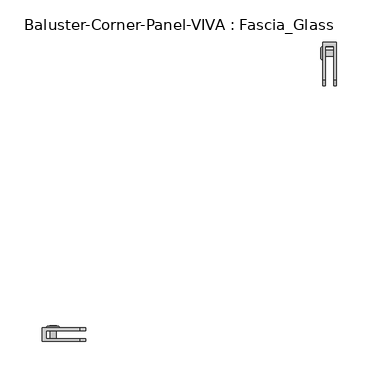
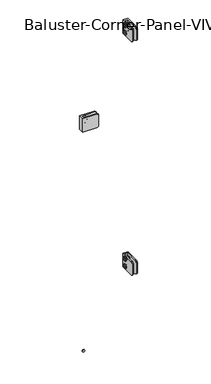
"""IFC4 building model written with IfcOpenShell, lengths in millimetres: railing geometry, Baluster-Corner-Panel-VIVA : Fascia_Glass."""

from ifc_helpers import new_model, si_unit, point, frame, origin, place, context, project, spatial, polyline, circle_curve, ellipse_curve, trimmed, outline, extrude, source, transform, mapped, element, save
from ifc_brep_helpers import plane_surface, cylinder_surface, revolved_surface, advanced_brep


def baluster_corner_panel_viva_fascia_glass_e2692511(model_context):
    return source(origin(), model_context, "Body", "SolidModel", [
        extrude(outline(polyline([(304.0266639, 917.178125), (301.9796998, 913.6326791), (297.8857715, 913.6326791), (295.8388073, 917.178125), (297.8857715, 920.7235709), (301.9796998, 920.7235709), (304.0266639, 917.178125)])), frame((21.7024185, 0.0, 0.0), z_axis=(1.0, 0.0, 0.0), x_axis=(0.0, 1.0, 0.0)), (0.0, 0.0, 1.0), 1.4969696),
        advanced_brep(
        [(36.7665, 303.4781815, 917.178125), (36.7665, 296.3872897, 917.178125), (24.0665, 296.3872897, 917.178125), (24.0665, 303.4781815, 917.178125), (24.0665, 292.5249465, 917.178125), (24.0665, 307.3405247, 917.178125), (23.199388, 301.588811, 917.178125), (23.199388, 298.2766602, 917.178125), (36.7665, 298.2766602, 917.178125), (36.7665, 301.588811, 917.178125), (23.2316551, 307.3405247, 917.178125), (23.2316551, 292.5249465, 917.178125), (21.9503831, 293.8062186, 917.178125), (21.9503831, 306.0592527, 917.178125), (21.9503831, 295.6341401, 917.178125), (21.9503831, 304.2313312, 917.178125), (23.199388, 295.6341401, 917.178125), (23.199388, 304.2313312, 917.178125)],
        [
            (0, 1, circle_curve(frame((36.7665, 299.9327356, 917.178125), z_axis=(-1.0, 0.0, 0.0), x_axis=(0.0, -1.0, 0.0)), 3.5454459)),
            (1, 2),
            (2, 3, circle_curve(frame((24.0665, 299.9327356, 917.178125), z_axis=(1.0, 0.0, 0.0), x_axis=(0.0, -1.0, 0.0)), 3.5454459)),
            (3, 0),
            (1, 0, circle_curve(frame((36.7665, 299.9327356, 917.178125), z_axis=(-1.0, 0.0, 0.0), x_axis=(0.0, -1.0, 0.0)), 3.5454459)),
            (3, 2, circle_curve(frame((24.0665, 299.9327356, 917.178125), z_axis=(1.0, 0.0, 0.0), x_axis=(0.0, -1.0, 0.0)), 3.5454459)),
            (2, 4),
            (4, 5, circle_curve(frame((24.0665, 299.9327356, 917.178125), z_axis=(1.0, 0.0, 0.0), x_axis=(0.0, -1.0, 0.0)), 7.4077891)),
            (5, 3),
            (5, 4, circle_curve(frame((24.0665, 299.9327356, 917.178125), z_axis=(1.0, 0.0, 0.0), x_axis=(0.0, -1.0, 0.0)), 7.4077891)),
            (6, 7, circle_curve(frame((23.199388, 299.9327356, 917.178125), z_axis=(-1.0, 0.0, 0.0), x_axis=(0.0, -1.0, 0.0)), 1.6560754)),
            (7, 8),
            (8, 9, circle_curve(frame((36.7665, 299.9327356, 917.178125), z_axis=(1.0, 0.0, 0.0), x_axis=(0.0, -1.0, 0.0)), 1.6560754)),
            (9, 6),
            (7, 6, circle_curve(frame((23.199388, 299.9327356, 917.178125), z_axis=(-1.0, 0.0, 0.0), x_axis=(0.0, -1.0, 0.0)), 1.6560754)),
            (9, 8, circle_curve(frame((36.7665, 299.9327356, 917.178125), z_axis=(1.0, 0.0, 0.0), x_axis=(0.0, -1.0, 0.0)), 1.6560754)),
            (10, 11, circle_curve(frame((23.2316551, 299.9327356, 917.178125), z_axis=(-1.0, 0.0, 0.0), x_axis=(0.0, -1.0, 0.0)), 7.4077891)),
            (11, 12, circle_curve(frame((23.2316551, 293.8062186, 917.178125), z_axis=(0.0, 0.0, -1.0), x_axis=(0.0, -1.0, 0.0)), 1.281272)),
            (12, 13, circle_curve(frame((21.9503831, 299.9327356, 917.178125), z_axis=(1.0, 0.0, 0.0), x_axis=(0.0, -1.0, 0.0)), 6.1265171)),
            (13, 10, circle_curve(frame((23.2316551, 306.0592527, 917.178125), z_axis=(0.0, 0.0, -1.0), x_axis=(0.0, 1.0, 0.0)), 1.281272)),
            (11, 10, circle_curve(frame((23.2316551, 299.9327356, 917.178125), z_axis=(-1.0, 0.0, 0.0), x_axis=(0.0, -1.0, 0.0)), 7.4077891)),
            (13, 12, circle_curve(frame((21.9503831, 299.9327356, 917.178125), z_axis=(1.0, 0.0, 0.0), x_axis=(0.0, -1.0, 0.0)), 6.1265171)),
            (12, 14),
            (14, 15, circle_curve(frame((21.9503831, 299.9327356, 917.178125), z_axis=(1.0, 0.0, 0.0), x_axis=(0.0, -1.0, 0.0)), 4.2985955)),
            (15, 13),
            (15, 14, circle_curve(frame((21.9503831, 299.9327356, 917.178125), z_axis=(1.0, 0.0, 0.0), x_axis=(0.0, -1.0, 0.0)), 4.2985955)),
            (4, 11),
            (10, 5),
            (8, 1),
            (0, 9),
            (14, 16),
            (16, 17, circle_curve(frame((23.199388, 299.9327356, 917.178125), z_axis=(1.0, 0.0, 0.0), x_axis=(0.0, -1.0, 0.0)), 4.2985955)),
            (17, 15),
            (17, 16, circle_curve(frame((23.199388, 299.9327356, 917.178125), z_axis=(1.0, 0.0, 0.0), x_axis=(0.0, -1.0, 0.0)), 4.2985955)),
            (16, 7),
            (6, 17),
        ],
        [
            cylinder_surface(frame((27.5632331, 299.9327356, 917.178125), z_axis=(1.0, 0.0, 0.0), x_axis=(0.0, -1.0, 0.0)), 3.5454459),
            plane_surface(frame((24.0665, 299.9327356, 917.178125), z_axis=(1.0, 0.0, 0.0), x_axis=(0.0, -1.0, 0.0))),
            revolved_surface(polyline([(36.7665, 298.2766602, 917.178125), (23.199388, 298.2766602, 917.178125)]), (27.5632331, 299.9327356, 917.178125), (1.0, 0.0, 0.0)),
            revolved_surface(trimmed(ellipse_curve(frame((23.2316551, 293.8062186, 917.178125), z_axis=(0.0, 0.0, 1.0), x_axis=(0.0, -1.0, 0.0)), 1.281272, 1.281272), [point((21.9503831, 293.8062186, 917.178125))], [point((23.2316551, 292.5249465, 917.178125))], True, "CARTESIAN"), (27.5632331, 299.9327356, 917.178125), (1.0, 0.0, 0.0)),
            plane_surface(frame((21.9503831, 299.9327356, 917.178125), z_axis=(-1.0, 0.0, 0.0), x_axis=(0.0, -1.0, 0.0))),
            cylinder_surface(frame((27.5632331, 299.9327356, 917.178125), z_axis=(1.0, 0.0, 0.0), x_axis=(0.0, -1.0, 0.0)), 7.4077891),
            plane_surface(frame((36.7665, 299.9327356, 917.178125), z_axis=(1.0, 0.0, 0.0), x_axis=(0.0, -1.0, 0.0))),
            revolved_surface(polyline([(23.199388, 295.6341401, 917.178125), (21.9503831, 295.6341401, 917.178125)]), (27.5632331, 299.9327356, 917.178125), (1.0, 0.0, 0.0)),
            plane_surface(frame((23.199388, 299.9327356, 917.178125), z_axis=(-1.0, 0.0, 0.0), x_axis=(0.0, -1.0, 0.0))),
        ],
        [
            (0, [[1, 2, 3, 4]]),
            (0, [[5, -4, 6, -2]]),
            (1, [[-3, 7, 8, 9]]),
            (1, [[-6, -9, 10, -7]]),
            (2, [[11, 12, 13, 14]]),
            (2, [[15, -14, 16, -12]]),
            (3, [[17, 18, 19, 20]]),
            (3, [[21, -20, 22, -18]]),
            (4, [[-19, 23, 24, 25]]),
            (4, [[-22, -25, 26, -23]]),
            (5, [[-8, 27, -17, 28]]),
            (5, [[-10, -28, -21, -27]]),
            (6, [[-13, 29, -1, 30]]),
            (6, [[-16, -30, -5, -29]]),
            (7, [[-24, 31, 32, 33]]),
            (7, [[-26, -33, 34, -31]]),
            (8, [[-32, 35, -11, 36]]),
            (8, [[-34, -36, -15, -35]]),
        ],
    ),
        advanced_brep(
        [(36.7665, 303.4781815, 892.571875), (36.7665, 296.3872897, 892.571875), (24.0665, 296.3872897, 892.571875), (24.0665, 303.4781815, 892.571875), (24.0665, 292.5249465, 892.571875), (24.0665, 307.3405247, 892.571875), (23.199388, 301.588811, 892.571875), (23.199388, 298.2766602, 892.571875), (36.7665, 298.2766602, 892.571875), (36.7665, 301.588811, 892.571875), (23.2316551, 307.3405247, 892.571875), (23.2316551, 292.5249465, 892.571875), (21.9503831, 293.8062186, 892.571875), (21.9503831, 306.0592527, 892.571875), (21.9503831, 295.6341401, 892.571875), (21.9503831, 304.2313312, 892.571875), (23.199388, 295.6341401, 892.571875), (23.199388, 304.2313312, 892.571875)],
        [
            (0, 1, circle_curve(frame((36.7665, 299.9327356, 892.571875), z_axis=(-1.0, 0.0, 0.0), x_axis=(0.0, -1.0, 0.0)), 3.5454459)),
            (1, 2),
            (2, 3, circle_curve(frame((24.0665, 299.9327356, 892.571875), z_axis=(1.0, 0.0, 0.0), x_axis=(0.0, -1.0, 0.0)), 3.5454459)),
            (3, 0),
            (1, 0, circle_curve(frame((36.7665, 299.9327356, 892.571875), z_axis=(-1.0, 0.0, 0.0), x_axis=(0.0, -1.0, 0.0)), 3.5454459)),
            (3, 2, circle_curve(frame((24.0665, 299.9327356, 892.571875), z_axis=(1.0, 0.0, 0.0), x_axis=(0.0, -1.0, 0.0)), 3.5454459)),
            (2, 4),
            (4, 5, circle_curve(frame((24.0665, 299.9327356, 892.571875), z_axis=(1.0, 0.0, 0.0), x_axis=(0.0, -1.0, 0.0)), 7.4077891)),
            (5, 3),
            (5, 4, circle_curve(frame((24.0665, 299.9327356, 892.571875), z_axis=(1.0, 0.0, 0.0), x_axis=(0.0, -1.0, 0.0)), 7.4077891)),
            (6, 7, circle_curve(frame((23.199388, 299.9327356, 892.571875), z_axis=(-1.0, 0.0, 0.0), x_axis=(0.0, -1.0, 0.0)), 1.6560754)),
            (7, 8),
            (8, 9, circle_curve(frame((36.7665, 299.9327356, 892.571875), z_axis=(1.0, 0.0, 0.0), x_axis=(0.0, -1.0, 0.0)), 1.6560754)),
            (9, 6),
            (7, 6, circle_curve(frame((23.199388, 299.9327356, 892.571875), z_axis=(-1.0, 0.0, 0.0), x_axis=(0.0, -1.0, 0.0)), 1.6560754)),
            (9, 8, circle_curve(frame((36.7665, 299.9327356, 892.571875), z_axis=(1.0, 0.0, 0.0), x_axis=(0.0, -1.0, 0.0)), 1.6560754)),
            (10, 11, circle_curve(frame((23.2316551, 299.9327356, 892.571875), z_axis=(-1.0, 0.0, 0.0), x_axis=(0.0, -1.0, 0.0)), 7.4077891)),
            (11, 12, circle_curve(frame((23.2316551, 293.8062186, 892.571875), z_axis=(0.0, 0.0, -1.0), x_axis=(0.0, -1.0, 0.0)), 1.281272)),
            (12, 13, circle_curve(frame((21.9503831, 299.9327356, 892.571875), z_axis=(1.0, 0.0, 0.0), x_axis=(0.0, -1.0, 0.0)), 6.1265171)),
            (13, 10, circle_curve(frame((23.2316551, 306.0592527, 892.571875), z_axis=(0.0, 0.0, -1.0), x_axis=(0.0, 1.0, 0.0)), 1.281272)),
            (11, 10, circle_curve(frame((23.2316551, 299.9327356, 892.571875), z_axis=(-1.0, 0.0, 0.0), x_axis=(0.0, -1.0, 0.0)), 7.4077891)),
            (13, 12, circle_curve(frame((21.9503831, 299.9327356, 892.571875), z_axis=(1.0, 0.0, 0.0), x_axis=(0.0, -1.0, 0.0)), 6.1265171)),
            (12, 14),
            (14, 15, circle_curve(frame((21.9503831, 299.9327356, 892.571875), z_axis=(1.0, 0.0, 0.0), x_axis=(0.0, -1.0, 0.0)), 4.2985955)),
            (15, 13),
            (15, 14, circle_curve(frame((21.9503831, 299.9327356, 892.571875), z_axis=(1.0, 0.0, 0.0), x_axis=(0.0, -1.0, 0.0)), 4.2985955)),
            (8, 1),
            (0, 9),
            (4, 11),
            (10, 5),
            (14, 16),
            (16, 17, circle_curve(frame((23.199388, 299.9327356, 892.571875), z_axis=(1.0, 0.0, 0.0), x_axis=(0.0, -1.0, 0.0)), 4.2985955)),
            (17, 15),
            (17, 16, circle_curve(frame((23.199388, 299.9327356, 892.571875), z_axis=(1.0, 0.0, 0.0), x_axis=(0.0, -1.0, 0.0)), 4.2985955)),
            (16, 7),
            (6, 17),
        ],
        [
            cylinder_surface(frame((27.5632331, 299.9327356, 892.571875), z_axis=(1.0, 0.0, 0.0), x_axis=(0.0, -1.0, 0.0)), 3.5454459),
            plane_surface(frame((24.0665, 299.9327356, 892.571875), z_axis=(1.0, 0.0, 0.0), x_axis=(0.0, -1.0, 0.0))),
            revolved_surface(polyline([(36.7665, 298.2766602, 892.571875), (23.199388, 298.2766602, 892.571875)]), (27.5632331, 299.9327356, 892.571875), (1.0, 0.0, 0.0)),
            revolved_surface(trimmed(ellipse_curve(frame((23.2316551, 293.8062186, 892.571875), z_axis=(0.0, 0.0, 1.0), x_axis=(0.0, -1.0, 0.0)), 1.281272, 1.281272), [point((21.9503831, 293.8062186, 892.571875))], [point((23.2316551, 292.5249465, 892.571875))], True, "CARTESIAN"), (27.5632331, 299.9327356, 892.571875), (1.0, 0.0, 0.0)),
            plane_surface(frame((21.9503831, 299.9327356, 892.571875), z_axis=(-1.0, 0.0, 0.0), x_axis=(0.0, -1.0, 0.0))),
            plane_surface(frame((36.7665, 299.9327356, 892.571875), z_axis=(1.0, 0.0, 0.0), x_axis=(0.0, -1.0, 0.0))),
            cylinder_surface(frame((27.5632331, 299.9327356, 892.571875), z_axis=(1.0, 0.0, 0.0), x_axis=(0.0, -1.0, 0.0)), 7.4077891),
            revolved_surface(polyline([(23.199388, 295.6341401, 892.571875), (21.9503831, 295.6341401, 892.571875)]), (27.5632331, 299.9327356, 892.571875), (1.0, 0.0, 0.0)),
            plane_surface(frame((23.199388, 299.9327356, 892.571875), z_axis=(-1.0, 0.0, 0.0), x_axis=(0.0, -1.0, 0.0))),
        ],
        [
            (0, [[1, 2, 3, 4]]),
            (0, [[5, -4, 6, -2]]),
            (1, [[-3, 7, 8, 9]]),
            (1, [[-6, -9, 10, -7]]),
            (2, [[11, 12, 13, 14]]),
            (2, [[15, -14, 16, -12]]),
            (3, [[17, 18, 19, 20]]),
            (3, [[21, -20, 22, -18]]),
            (4, [[-19, 23, 24, 25]]),
            (4, [[-22, -25, 26, -23]]),
            (5, [[-13, 27, -1, 28]]),
            (5, [[-16, -28, -5, -27]]),
            (6, [[-8, 29, -17, 30]]),
            (6, [[-10, -30, -21, -29]]),
            (7, [[-24, 31, 32, 33]]),
            (7, [[-26, -33, 34, -31]]),
            (8, [[-32, 35, -11, 36]]),
            (8, [[-34, -36, -15, -35]]),
        ],
    ),
        extrude(outline(polyline([(304.0266639, 892.571875), (301.9796998, 889.0264291), (297.8857715, 889.0264291), (295.8388073, 892.571875), (297.8857715, 896.1173209), (301.9796998, 896.1173209), (304.0266639, 892.571875)])), frame((21.7024185, 0.0, 0.0), z_axis=(1.0, 0.0, 0.0), x_axis=(0.0, 1.0, 0.0)), (0.0, 0.0, 1.0), 1.4969696),
        advanced_brep(
        [(24.0665, 312.5660804, 927.1), (24.0665, 312.5660804, 882.65), (24.0665, 268.1160804, 882.65), (24.0665, 261.7660804, 889.0), (24.0665, 261.7660804, 920.75), (24.0665, 268.1160804, 927.1), (39.9415, 312.5660804, 927.1), (39.9415, 268.1160804, 927.1), (39.9415, 261.7660804, 920.75), (39.9415, 261.7660804, 889.0), (39.9415, 268.1160804, 882.65), (39.9415, 312.5660804, 882.65), (36.7665, 268.1160804, 882.65), (36.7665, 307.848, 882.65), (27.2415, 307.848, 882.65), (27.2415, 268.1160804, 882.65), (36.7665, 307.848, 927.1), (27.2415, 307.848, 927.1), (27.2415, 268.1160804, 927.1), (27.2415, 261.7660804, 920.75), (27.2415, 261.7660804, 889.0), (36.7665, 261.7660804, 889.0), (36.7665, 261.7660804, 920.75), (36.7665, 268.1160804, 927.1)],
        [
            (0, 1),
            (1, 2),
            (2, 3, circle_curve(frame((24.0665, 268.1160804, 889.0), z_axis=(-1.0, 0.0, 0.0), x_axis=(0.0, -1.0, 0.0)), 6.35)),
            (3, 4),
            (4, 5, circle_curve(frame((24.0665, 268.1160804, 920.75), z_axis=(-1.0, 0.0, 0.0), x_axis=(0.0, -1.0, 0.0)), 6.35)),
            (5, 0),
            (6, 7),
            (7, 8, circle_curve(frame((39.9415, 268.1160804, 920.75), z_axis=(1.0, 0.0, 0.0), x_axis=(0.0, -1.0, 0.0)), 6.35)),
            (8, 9),
            (9, 10, circle_curve(frame((39.9415, 268.1160804, 889.0), z_axis=(1.0, 0.0, 0.0), x_axis=(0.0, -1.0, 0.0)), 6.35)),
            (10, 11),
            (11, 6),
            (0, 6),
            (11, 1),
            (10, 12),
            (12, 13),
            (13, 14),
            (14, 15),
            (15, 2),
            (13, 16),
            (16, 17),
            (17, 14),
            (17, 18),
            (18, 19, circle_curve(frame((27.2415, 268.1160804, 920.75), z_axis=(1.0, 0.0, 0.0), x_axis=(0.0, -1.0, 0.0)), 6.35)),
            (19, 20),
            (20, 15, circle_curve(frame((27.2415, 268.1160804, 889.0), z_axis=(1.0, 0.0, 0.0), x_axis=(0.0, -1.0, 0.0)), 6.35)),
            (12, 21, circle_curve(frame((36.7665, 268.1160804, 889.0), z_axis=(-1.0, 0.0, 0.0), x_axis=(0.0, -1.0, 0.0)), 6.35)),
            (21, 22),
            (22, 23, circle_curve(frame((36.7665, 268.1160804, 920.75), z_axis=(-1.0, 0.0, 0.0), x_axis=(0.0, -1.0, 0.0)), 6.35)),
            (23, 16),
            (20, 3),
            (9, 21),
            (19, 4),
            (8, 22),
            (18, 5),
            (7, 23),
        ],
        [
            plane_surface(frame((24.0665, 312.5660804, 882.65), z_axis=(-1.0, 0.0, 0.0), x_axis=(0.0, 0.0, -1.0))),
            plane_surface(frame((39.9415, 312.5660804, 882.65), z_axis=(1.0, 0.0, 0.0), x_axis=(0.0, 0.0, 1.0))),
            plane_surface(frame((24.0665, 312.5660804, 927.1), z_axis=(0.0, 1.0, 0.0), x_axis=(1.0, 0.0, 0.0))),
            plane_surface(frame((24.0665, 312.5660804, 882.65), z_axis=(0.0, 0.0, -1.0), x_axis=(1.0, 0.0, 0.0))),
            plane_surface(frame((36.7665, 307.848, 939.8), z_axis=(0.0, -1.0, 0.0), x_axis=(0.0, 0.0, -1.0))),
            plane_surface(frame((27.2415, 307.848, 939.8), z_axis=(1.0, 0.0, 0.0), x_axis=(0.0, 0.0, -1.0))),
            plane_surface(frame((36.7665, 249.0660804, 939.8), z_axis=(-1.0, 0.0, 0.0), x_axis=(0.0, 0.0, -1.0))),
            cylinder_surface(frame((39.9415, 268.1160804, 889.0), z_axis=(-1.0, 0.0, 0.0), x_axis=(0.0, -1.0, 0.0)), 6.35),
            plane_surface(frame((24.0665, 261.7660804, 889.0), z_axis=(0.0, -1.0, 0.0), x_axis=(1.0, 0.0, 0.0))),
            cylinder_surface(frame((39.9415, 268.1160804, 920.75), z_axis=(-1.0, 0.0, 0.0), x_axis=(0.0, -1.0, 0.0)), 6.35),
            plane_surface(frame((24.0665, 268.1160804, 927.1), z_axis=(0.0, 0.0, 1.0), x_axis=(1.0, 0.0, 0.0))),
        ],
        [
            (0, [[1, 2, 3, 4, 5, 6]]),
            (1, [[7, 8, 9, 10, 11, 12]]),
            (2, [[-1, 13, -12, 14]]),
            (3, [[-2, -14, -11, 15, 16, 17, 18, 19]]),
            (4, [[20, 21, 22, -17]]),
            (5, [[-22, 23, 24, 25, 26, -18]]),
            (6, [[-20, -16, 27, 28, 29, 30]]),
            (7, [[-3, -19, -26, 31]]),
            (7, [[-10, 32, -27, -15]]),
            (8, [[-4, -31, -25, 33]]),
            (8, [[-9, 34, -28, -32]]),
            (9, [[-5, -33, -24, 35]]),
            (9, [[-8, 36, -29, -34]]),
            (10, [[-6, -35, -23, -21, -30, -36, -7, -13]]),
        ],
    ),
        extrude(outline(polyline([(304.0266639, 138.7358896), (301.9796998, 135.1904437), (297.8857715, 135.1904437), (295.8388073, 138.7358896), (297.8857715, 142.2813355), (301.9796998, 142.2813355), (304.0266639, 138.7358896)])), frame((21.7024185, 0.0, 0.0), z_axis=(1.0, 0.0, 0.0), x_axis=(0.0, 1.0, 0.0)), (0.0, 0.0, 1.0), 1.4969696),
        advanced_brep(
        [(36.7665, 303.4781815, 138.7358896), (36.7665, 296.3872897, 138.7358896), (24.0665, 296.3872897, 138.7358896), (24.0665, 303.4781815, 138.7358896), (24.0665, 292.5249465, 138.7358896), (24.0665, 307.3405247, 138.7358896), (23.199388, 301.588811, 138.7358896), (23.199388, 298.2766602, 138.7358896), (36.7665, 298.2766602, 138.7358896), (36.7665, 301.588811, 138.7358896), (23.2316551, 307.3405247, 138.7358896), (23.2316551, 292.5249465, 138.7358896), (21.9503831, 293.8062186, 138.7358896), (21.9503831, 306.0592527, 138.7358896), (21.9503831, 295.6341401, 138.7358896), (21.9503831, 304.2313312, 138.7358896), (23.199388, 295.6341401, 138.7358896), (23.199388, 304.2313312, 138.7358896)],
        [
            (0, 1, circle_curve(frame((36.7665, 299.9327356, 138.7358896), z_axis=(-1.0, 0.0, 0.0), x_axis=(0.0, -1.0, 0.0)), 3.5454459)),
            (1, 2),
            (2, 3, circle_curve(frame((24.0665, 299.9327356, 138.7358896), z_axis=(1.0, 0.0, 0.0), x_axis=(0.0, -1.0, 0.0)), 3.5454459)),
            (3, 0),
            (1, 0, circle_curve(frame((36.7665, 299.9327356, 138.7358896), z_axis=(-1.0, 0.0, 0.0), x_axis=(0.0, -1.0, 0.0)), 3.5454459)),
            (3, 2, circle_curve(frame((24.0665, 299.9327356, 138.7358896), z_axis=(1.0, 0.0, 0.0), x_axis=(0.0, -1.0, 0.0)), 3.5454459)),
            (2, 4),
            (4, 5, circle_curve(frame((24.0665, 299.9327356, 138.7358896), z_axis=(1.0, 0.0, 0.0), x_axis=(0.0, -1.0, 0.0)), 7.4077891)),
            (5, 3),
            (5, 4, circle_curve(frame((24.0665, 299.9327356, 138.7358896), z_axis=(1.0, 0.0, 0.0), x_axis=(0.0, -1.0, 0.0)), 7.4077891)),
            (6, 7, circle_curve(frame((23.199388, 299.9327356, 138.7358896), z_axis=(-1.0, 0.0, 0.0), x_axis=(0.0, -1.0, 0.0)), 1.6560754)),
            (7, 8),
            (8, 9, circle_curve(frame((36.7665, 299.9327356, 138.7358896), z_axis=(1.0, 0.0, 0.0), x_axis=(0.0, -1.0, 0.0)), 1.6560754)),
            (9, 6),
            (7, 6, circle_curve(frame((23.199388, 299.9327356, 138.7358896), z_axis=(-1.0, 0.0, 0.0), x_axis=(0.0, -1.0, 0.0)), 1.6560754)),
            (9, 8, circle_curve(frame((36.7665, 299.9327356, 138.7358896), z_axis=(1.0, 0.0, 0.0), x_axis=(0.0, -1.0, 0.0)), 1.6560754)),
            (10, 11, circle_curve(frame((23.2316551, 299.9327356, 138.7358896), z_axis=(-1.0, 0.0, 0.0), x_axis=(0.0, -1.0, 0.0)), 7.4077891)),
            (11, 12, circle_curve(frame((23.2316551, 293.8062186, 138.7358896), z_axis=(0.0, 0.0, -1.0), x_axis=(0.0, -1.0, 0.0)), 1.281272)),
            (12, 13, circle_curve(frame((21.9503831, 299.9327356, 138.7358896), z_axis=(1.0, 0.0, 0.0), x_axis=(0.0, -1.0, 0.0)), 6.1265171)),
            (13, 10, circle_curve(frame((23.2316551, 306.0592527, 138.7358896), z_axis=(0.0, 0.0, -1.0), x_axis=(0.0, 1.0, 0.0)), 1.281272)),
            (11, 10, circle_curve(frame((23.2316551, 299.9327356, 138.7358896), z_axis=(-1.0, 0.0, 0.0), x_axis=(0.0, -1.0, 0.0)), 7.4077891)),
            (13, 12, circle_curve(frame((21.9503831, 299.9327356, 138.7358896), z_axis=(1.0, 0.0, 0.0), x_axis=(0.0, -1.0, 0.0)), 6.1265171)),
            (12, 14),
            (14, 15, circle_curve(frame((21.9503831, 299.9327356, 138.7358896), z_axis=(1.0, 0.0, 0.0), x_axis=(0.0, -1.0, 0.0)), 4.2985955)),
            (15, 13),
            (15, 14, circle_curve(frame((21.9503831, 299.9327356, 138.7358896), z_axis=(1.0, 0.0, 0.0), x_axis=(0.0, -1.0, 0.0)), 4.2985955)),
            (4, 11),
            (10, 5),
            (8, 1),
            (0, 9),
            (14, 16),
            (16, 17, circle_curve(frame((23.199388, 299.9327356, 138.7358896), z_axis=(1.0, 0.0, 0.0), x_axis=(0.0, -1.0, 0.0)), 4.2985955)),
            (17, 15),
            (17, 16, circle_curve(frame((23.199388, 299.9327356, 138.7358896), z_axis=(1.0, 0.0, 0.0), x_axis=(0.0, -1.0, 0.0)), 4.2985955)),
            (16, 7),
            (6, 17),
        ],
        [
            cylinder_surface(frame((27.5632331, 299.9327356, 138.7358896), z_axis=(1.0, 0.0, 0.0), x_axis=(0.0, -1.0, 0.0)), 3.5454459),
            plane_surface(frame((24.0665, 299.9327356, 138.7358896), z_axis=(1.0, 0.0, 0.0), x_axis=(0.0, -1.0, 0.0))),
            revolved_surface(polyline([(36.7665, 298.2766602, 138.7358896), (23.199388, 298.2766602, 138.7358896)]), (27.5632331, 299.9327356, 138.7358896), (1.0, 0.0, 0.0)),
            revolved_surface(trimmed(ellipse_curve(frame((23.2316551, 293.8062186, 138.7358896), z_axis=(0.0, 0.0, 1.0), x_axis=(0.0, -1.0, 0.0)), 1.281272, 1.281272), [point((21.9503831, 293.8062186, 138.7358896))], [point((23.2316551, 292.5249465, 138.7358896))], True, "CARTESIAN"), (27.5632331, 299.9327356, 138.7358896), (1.0, 0.0, 0.0)),
            plane_surface(frame((21.9503831, 299.9327356, 138.7358896), z_axis=(-1.0, 0.0, 0.0), x_axis=(0.0, -1.0, 0.0))),
            cylinder_surface(frame((27.5632331, 299.9327356, 138.7358896), z_axis=(1.0, 0.0, 0.0), x_axis=(0.0, -1.0, 0.0)), 7.4077891),
            plane_surface(frame((36.7665, 299.9327356, 138.7358896), z_axis=(1.0, 0.0, 0.0), x_axis=(0.0, -1.0, 0.0))),
            revolved_surface(polyline([(23.199388, 295.6341401, 138.7358896), (21.9503831, 295.6341401, 138.7358896)]), (27.5632331, 299.9327356, 138.7358896), (1.0, 0.0, 0.0)),
            plane_surface(frame((23.199388, 299.9327356, 138.7358896), z_axis=(-1.0, 0.0, 0.0), x_axis=(0.0, -1.0, 0.0))),
        ],
        [
            (0, [[1, 2, 3, 4]]),
            (0, [[5, -4, 6, -2]]),
            (1, [[-3, 7, 8, 9]]),
            (1, [[-6, -9, 10, -7]]),
            (2, [[11, 12, 13, 14]]),
            (2, [[15, -14, 16, -12]]),
            (3, [[17, 18, 19, 20]]),
            (3, [[21, -20, 22, -18]]),
            (4, [[-19, 23, 24, 25]]),
            (4, [[-22, -25, 26, -23]]),
            (5, [[-8, 27, -17, 28]]),
            (5, [[-10, -28, -21, -27]]),
            (6, [[-13, 29, -1, 30]]),
            (6, [[-16, -30, -5, -29]]),
            (7, [[-24, 31, 32, 33]]),
            (7, [[-26, -33, 34, -31]]),
            (8, [[-32, 35, -11, 36]]),
            (8, [[-34, -36, -15, -35]]),
        ],
    ),
        advanced_brep(
        [(36.7665, 303.4781815, 114.1296396), (36.7665, 296.3872897, 114.1296396), (24.0665, 296.3872897, 114.1296396), (24.0665, 303.4781815, 114.1296396), (24.0665, 292.5249465, 114.1296396), (24.0665, 307.3405247, 114.1296396), (23.199388, 301.588811, 114.1296396), (23.199388, 298.2766602, 114.1296396), (36.7665, 298.2766602, 114.1296396), (36.7665, 301.588811, 114.1296396), (23.2316551, 307.3405247, 114.1296396), (23.2316551, 292.5249465, 114.1296396), (21.9503831, 293.8062186, 114.1296396), (21.9503831, 306.0592527, 114.1296396), (21.9503831, 295.6341401, 114.1296396), (21.9503831, 304.2313312, 114.1296396), (23.199388, 295.6341401, 114.1296396), (23.199388, 304.2313312, 114.1296396)],
        [
            (0, 1, circle_curve(frame((36.7665, 299.9327356, 114.1296396), z_axis=(-1.0, 0.0, 0.0), x_axis=(0.0, -1.0, 0.0)), 3.5454459)),
            (1, 2),
            (2, 3, circle_curve(frame((24.0665, 299.9327356, 114.1296396), z_axis=(1.0, 0.0, 0.0), x_axis=(0.0, -1.0, 0.0)), 3.5454459)),
            (3, 0),
            (1, 0, circle_curve(frame((36.7665, 299.9327356, 114.1296396), z_axis=(-1.0, 0.0, 0.0), x_axis=(0.0, -1.0, 0.0)), 3.5454459)),
            (3, 2, circle_curve(frame((24.0665, 299.9327356, 114.1296396), z_axis=(1.0, 0.0, 0.0), x_axis=(0.0, -1.0, 0.0)), 3.5454459)),
            (2, 4),
            (4, 5, circle_curve(frame((24.0665, 299.9327356, 114.1296396), z_axis=(1.0, 0.0, 0.0), x_axis=(0.0, -1.0, 0.0)), 7.4077891)),
            (5, 3),
            (5, 4, circle_curve(frame((24.0665, 299.9327356, 114.1296396), z_axis=(1.0, 0.0, 0.0), x_axis=(0.0, -1.0, 0.0)), 7.4077891)),
            (6, 7, circle_curve(frame((23.199388, 299.9327356, 114.1296396), z_axis=(-1.0, 0.0, 0.0), x_axis=(0.0, -1.0, 0.0)), 1.6560754)),
            (7, 8),
            (8, 9, circle_curve(frame((36.7665, 299.9327356, 114.1296396), z_axis=(1.0, 0.0, 0.0), x_axis=(0.0, -1.0, 0.0)), 1.6560754)),
            (9, 6),
            (7, 6, circle_curve(frame((23.199388, 299.9327356, 114.1296396), z_axis=(-1.0, 0.0, 0.0), x_axis=(0.0, -1.0, 0.0)), 1.6560754)),
            (9, 8, circle_curve(frame((36.7665, 299.9327356, 114.1296396), z_axis=(1.0, 0.0, 0.0), x_axis=(0.0, -1.0, 0.0)), 1.6560754)),
            (10, 11, circle_curve(frame((23.2316551, 299.9327356, 114.1296396), z_axis=(-1.0, 0.0, 0.0), x_axis=(0.0, -1.0, 0.0)), 7.4077891)),
            (11, 12, circle_curve(frame((23.2316551, 293.8062186, 114.1296396), z_axis=(0.0, 0.0, -1.0), x_axis=(0.0, -1.0, 0.0)), 1.281272)),
            (12, 13, circle_curve(frame((21.9503831, 299.9327356, 114.1296396), z_axis=(1.0, 0.0, 0.0), x_axis=(0.0, -1.0, 0.0)), 6.1265171)),
            (13, 10, circle_curve(frame((23.2316551, 306.0592527, 114.1296396), z_axis=(0.0, 0.0, -1.0), x_axis=(0.0, 1.0, 0.0)), 1.281272)),
            (11, 10, circle_curve(frame((23.2316551, 299.9327356, 114.1296396), z_axis=(-1.0, 0.0, 0.0), x_axis=(0.0, -1.0, 0.0)), 7.4077891)),
            (13, 12, circle_curve(frame((21.9503831, 299.9327356, 114.1296396), z_axis=(1.0, 0.0, 0.0), x_axis=(0.0, -1.0, 0.0)), 6.1265171)),
            (12, 14),
            (14, 15, circle_curve(frame((21.9503831, 299.9327356, 114.1296396), z_axis=(1.0, 0.0, 0.0), x_axis=(0.0, -1.0, 0.0)), 4.2985955)),
            (15, 13),
            (15, 14, circle_curve(frame((21.9503831, 299.9327356, 114.1296396), z_axis=(1.0, 0.0, 0.0), x_axis=(0.0, -1.0, 0.0)), 4.2985955)),
            (8, 1),
            (0, 9),
            (4, 11),
            (10, 5),
            (14, 16),
            (16, 17, circle_curve(frame((23.199388, 299.9327356, 114.1296396), z_axis=(1.0, 0.0, 0.0), x_axis=(0.0, -1.0, 0.0)), 4.2985955)),
            (17, 15),
            (17, 16, circle_curve(frame((23.199388, 299.9327356, 114.1296396), z_axis=(1.0, 0.0, 0.0), x_axis=(0.0, -1.0, 0.0)), 4.2985955)),
            (16, 7),
            (6, 17),
        ],
        [
            cylinder_surface(frame((27.5632331, 299.9327356, 114.1296396), z_axis=(1.0, 0.0, 0.0), x_axis=(0.0, -1.0, 0.0)), 3.5454459),
            plane_surface(frame((24.0665, 299.9327356, 114.1296396), z_axis=(1.0, 0.0, 0.0), x_axis=(0.0, -1.0, 0.0))),
            revolved_surface(polyline([(36.7665, 298.2766602, 114.1296396), (23.199388, 298.2766602, 114.1296396)]), (27.5632331, 299.9327356, 114.1296396), (1.0, 0.0, 0.0)),
            revolved_surface(trimmed(ellipse_curve(frame((23.2316551, 293.8062186, 114.1296396), z_axis=(0.0, 0.0, 1.0), x_axis=(0.0, -1.0, 0.0)), 1.281272, 1.281272), [point((21.9503831, 293.8062186, 114.1296396))], [point((23.2316551, 292.5249465, 114.1296396))], True, "CARTESIAN"), (27.5632331, 299.9327356, 114.1296396), (1.0, 0.0, 0.0)),
            plane_surface(frame((21.9503831, 299.9327356, 114.1296396), z_axis=(-1.0, 0.0, 0.0), x_axis=(0.0, -1.0, 0.0))),
            plane_surface(frame((36.7665, 299.9327356, 114.1296396), z_axis=(1.0, 0.0, 0.0), x_axis=(0.0, -1.0, 0.0))),
            cylinder_surface(frame((27.5632331, 299.9327356, 114.1296396), z_axis=(1.0, 0.0, 0.0), x_axis=(0.0, -1.0, 0.0)), 7.4077891),
            revolved_surface(polyline([(23.199388, 295.6341401, 114.1296396), (21.9503831, 295.6341401, 114.1296396)]), (27.5632331, 299.9327356, 114.1296396), (1.0, 0.0, 0.0)),
            plane_surface(frame((23.199388, 299.9327356, 114.1296396), z_axis=(-1.0, 0.0, 0.0), x_axis=(0.0, -1.0, 0.0))),
        ],
        [
            (0, [[1, 2, 3, 4]]),
            (0, [[5, -4, 6, -2]]),
            (1, [[-3, 7, 8, 9]]),
            (1, [[-6, -9, 10, -7]]),
            (2, [[11, 12, 13, 14]]),
            (2, [[15, -14, 16, -12]]),
            (3, [[17, 18, 19, 20]]),
            (3, [[21, -20, 22, -18]]),
            (4, [[-19, 23, 24, 25]]),
            (4, [[-22, -25, 26, -23]]),
            (5, [[-13, 27, -1, 28]]),
            (5, [[-16, -28, -5, -27]]),
            (6, [[-8, 29, -17, 30]]),
            (6, [[-10, -30, -21, -29]]),
            (7, [[-24, 31, 32, 33]]),
            (7, [[-26, -33, 34, -31]]),
            (8, [[-32, 35, -11, 36]]),
            (8, [[-34, -36, -15, -35]]),
        ],
    ),
        extrude(outline(polyline([(304.0266639, 114.1296396), (301.9796998, 110.5841937), (297.8857715, 110.5841937), (295.8388073, 114.1296396), (297.8857715, 117.6750855), (301.9796998, 117.6750855), (304.0266639, 114.1296396)])), frame((21.7024185, 0.0, 0.0), z_axis=(1.0, 0.0, 0.0), x_axis=(0.0, 1.0, 0.0)), (0.0, 0.0, 1.0), 1.4969696),
        advanced_brep(
        [(24.0665, 312.5660804, 148.6577646), (24.0665, 312.5660804, 104.2077646), (24.0665, 268.1160804, 104.2077646), (24.0665, 261.7660804, 110.5577646), (24.0665, 261.7660804, 142.3077646), (24.0665, 268.1160804, 148.6577646), (39.9415, 312.5660804, 148.6577646), (39.9415, 268.1160804, 148.6577646), (39.9415, 261.7660804, 142.3077646), (39.9415, 261.7660804, 110.5577646), (39.9415, 268.1160804, 104.2077646), (39.9415, 312.5660804, 104.2077646), (36.7665, 268.1160804, 104.2077646), (36.7665, 307.848, 104.2077646), (27.2415, 307.848, 104.2077646), (27.2415, 268.1160804, 104.2077646), (36.7665, 307.848, 148.6577646), (27.2415, 307.848, 148.6577646), (27.2415, 268.1160804, 148.6577646), (27.2415, 261.7660804, 142.3077646), (27.2415, 261.7660804, 110.5577646), (36.7665, 261.7660804, 110.5577646), (36.7665, 261.7660804, 142.3077646), (36.7665, 268.1160804, 148.6577646)],
        [
            (0, 1),
            (1, 2),
            (2, 3, circle_curve(frame((24.0665, 268.1160804, 110.5577646), z_axis=(-1.0, 0.0, 0.0), x_axis=(0.0, -1.0, 0.0)), 6.35)),
            (3, 4),
            (4, 5, circle_curve(frame((24.0665, 268.1160804, 142.3077646), z_axis=(-1.0, 0.0, 0.0), x_axis=(0.0, -1.0, 0.0)), 6.35)),
            (5, 0),
            (6, 7),
            (7, 8, circle_curve(frame((39.9415, 268.1160804, 142.3077646), z_axis=(1.0, 0.0, 0.0), x_axis=(0.0, -1.0, 0.0)), 6.35)),
            (8, 9),
            (9, 10, circle_curve(frame((39.9415, 268.1160804, 110.5577646), z_axis=(1.0, 0.0, 0.0), x_axis=(0.0, -1.0, 0.0)), 6.35)),
            (10, 11),
            (11, 6),
            (0, 6),
            (11, 1),
            (10, 12),
            (12, 13),
            (13, 14),
            (14, 15),
            (15, 2),
            (13, 16),
            (16, 17),
            (17, 14),
            (17, 18),
            (18, 19, circle_curve(frame((27.2415, 268.1160804, 142.3077646), z_axis=(1.0, 0.0, 0.0), x_axis=(0.0, -1.0, 0.0)), 6.35)),
            (19, 20),
            (20, 15, circle_curve(frame((27.2415, 268.1160804, 110.5577646), z_axis=(1.0, 0.0, 0.0), x_axis=(0.0, -1.0, 0.0)), 6.35)),
            (12, 21, circle_curve(frame((36.7665, 268.1160804, 110.5577646), z_axis=(-1.0, 0.0, 0.0), x_axis=(0.0, -1.0, 0.0)), 6.35)),
            (21, 22),
            (22, 23, circle_curve(frame((36.7665, 268.1160804, 142.3077646), z_axis=(-1.0, 0.0, 0.0), x_axis=(0.0, -1.0, 0.0)), 6.35)),
            (23, 16),
            (20, 3),
            (9, 21),
            (19, 4),
            (8, 22),
            (18, 5),
            (7, 23),
        ],
        [
            plane_surface(frame((24.0665, 312.5660804, 104.2077646), z_axis=(-1.0, 0.0, 0.0), x_axis=(0.0, 0.0, -1.0))),
            plane_surface(frame((39.9415, 312.5660804, 104.2077646), z_axis=(1.0, 0.0, 0.0), x_axis=(0.0, 0.0, 1.0))),
            plane_surface(frame((24.0665, 312.5660804, 148.6577646), z_axis=(0.0, 1.0, 0.0), x_axis=(1.0, 0.0, 0.0))),
            plane_surface(frame((24.0665, 312.5660804, 104.2077646), z_axis=(0.0, 0.0, -1.0), x_axis=(1.0, 0.0, 0.0))),
            plane_surface(frame((36.7665, 307.848, 161.3577646), z_axis=(0.0, -1.0, 0.0), x_axis=(0.0, 0.0, -1.0))),
            plane_surface(frame((27.2415, 307.848, 161.3577646), z_axis=(1.0, 0.0, 0.0), x_axis=(0.0, 0.0, -1.0))),
            plane_surface(frame((36.7665, 249.0660804, 161.3577646), z_axis=(-1.0, 0.0, 0.0), x_axis=(0.0, 0.0, -1.0))),
            cylinder_surface(frame((39.9415, 268.1160804, 110.5577646), z_axis=(-1.0, 0.0, 0.0), x_axis=(0.0, -1.0, 0.0)), 6.35),
            plane_surface(frame((24.0665, 261.7660804, 110.5577646), z_axis=(0.0, -1.0, 0.0), x_axis=(1.0, 0.0, 0.0))),
            cylinder_surface(frame((39.9415, 268.1160804, 142.3077646), z_axis=(-1.0, 0.0, 0.0), x_axis=(0.0, -1.0, 0.0)), 6.35),
            plane_surface(frame((24.0665, 268.1160804, 148.6577646), z_axis=(0.0, 0.0, 1.0), x_axis=(1.0, 0.0, 0.0))),
        ],
        [
            (0, [[1, 2, 3, 4, 5, 6]]),
            (1, [[7, 8, 9, 10, 11, 12]]),
            (2, [[-1, 13, -12, 14]]),
            (3, [[-2, -14, -11, 15, 16, 17, 18, 19]]),
            (4, [[20, 21, 22, -17]]),
            (5, [[-22, 23, 24, 25, 26, -18]]),
            (6, [[-20, -16, 27, 28, 29, 30]]),
            (7, [[-3, -19, -26, 31]]),
            (7, [[-10, 32, -27, -15]]),
            (8, [[-4, -31, -25, 33]]),
            (8, [[-9, 34, -28, -32]]),
            (9, [[-5, -33, -24, 35]]),
            (9, [[-8, 36, -29, -34]]),
            (10, [[-6, -35, -23, -21, -30, -36, -7, -13]]),
        ],
    ),
        extrude(outline(polyline([(917.178125, -298.4386639), (913.6326791, -296.3916998), (913.6326791, -292.2977715), (917.178125, -290.2508073), (920.7235709, -292.2977715), (920.7235709, -296.3916998), (917.178125, -298.4386639)])), frame((0.0, -23.199388, 0.0), z_axis=(0.0, 1.0, 0.0), x_axis=(0.0, 0.0, 1.0)), (0.0, 0.0, 1.0), 1.4969696),
        advanced_brep(
        [(-297.8901815, -36.7665, 917.178125), (-297.8901815, -24.0665, 917.178125), (-290.7992897, -24.0665, 917.178125), (-290.7992897, -36.7665, 917.178125), (-301.7525247, -24.0665, 917.178125), (-286.9369465, -24.0665, 917.178125), (-296.000811, -23.199388, 917.178125), (-296.000811, -36.7665, 917.178125), (-292.6886602, -36.7665, 917.178125), (-292.6886602, -23.199388, 917.178125), (-301.7525247, -23.2316551, 917.178125), (-300.4712527, -21.9503831, 917.178125), (-288.2182186, -21.9503831, 917.178125), (-286.9369465, -23.2316551, 917.178125), (-298.6433312, -21.9503831, 917.178125), (-290.0461401, -21.9503831, 917.178125), (-298.6433312, -23.199388, 917.178125), (-290.0461401, -23.199388, 917.178125)],
        [
            (0, 1),
            (1, 2, circle_curve(frame((-294.3447356, -24.0665, 917.178125), z_axis=(0.0, -1.0, 0.0), x_axis=(1.0, 0.0, 0.0)), 3.5454459)),
            (2, 3),
            (3, 0, circle_curve(frame((-294.3447356, -36.7665, 917.178125), z_axis=(0.0, 1.0, 0.0), x_axis=(1.0, 0.0, 0.0)), 3.5454459)),
            (2, 1, circle_curve(frame((-294.3447356, -24.0665, 917.178125), z_axis=(0.0, -1.0, 0.0), x_axis=(1.0, 0.0, 0.0)), 3.5454459)),
            (0, 3, circle_curve(frame((-294.3447356, -36.7665, 917.178125), z_axis=(0.0, 1.0, 0.0), x_axis=(1.0, 0.0, 0.0)), 3.5454459)),
            (1, 4),
            (4, 5, circle_curve(frame((-294.3447356, -24.0665, 917.178125), z_axis=(0.0, -1.0, 0.0), x_axis=(1.0, 0.0, 0.0)), 7.4077891)),
            (5, 2),
            (5, 4, circle_curve(frame((-294.3447356, -24.0665, 917.178125), z_axis=(0.0, -1.0, 0.0), x_axis=(1.0, 0.0, 0.0)), 7.4077891)),
            (6, 7),
            (7, 8, circle_curve(frame((-294.3447356, -36.7665, 917.178125), z_axis=(0.0, -1.0, 0.0), x_axis=(1.0, 0.0, 0.0)), 1.6560754)),
            (8, 9),
            (9, 6, circle_curve(frame((-294.3447356, -23.199388, 917.178125), z_axis=(0.0, 1.0, 0.0), x_axis=(1.0, 0.0, 0.0)), 1.6560754)),
            (8, 7, circle_curve(frame((-294.3447356, -36.7665, 917.178125), z_axis=(0.0, -1.0, 0.0), x_axis=(1.0, 0.0, 0.0)), 1.6560754)),
            (6, 9, circle_curve(frame((-294.3447356, -23.199388, 917.178125), z_axis=(0.0, 1.0, 0.0), x_axis=(1.0, 0.0, 0.0)), 1.6560754)),
            (10, 11, circle_curve(frame((-300.4712527, -23.2316551, 917.178125), z_axis=(0.0, 0.0, -1.0), x_axis=(-1.0, 0.0, 0.0)), 1.281272)),
            (11, 12, circle_curve(frame((-294.3447356, -21.9503831, 917.178125), z_axis=(0.0, -1.0, 0.0), x_axis=(1.0, 0.0, 0.0)), 6.1265171)),
            (12, 13, circle_curve(frame((-288.2182186, -23.2316551, 917.178125), z_axis=(0.0, 0.0, -1.0), x_axis=(1.0, 0.0, 0.0)), 1.281272)),
            (13, 10, circle_curve(frame((-294.3447356, -23.2316551, 917.178125), z_axis=(0.0, 1.0, 0.0), x_axis=(1.0, 0.0, 0.0)), 7.4077891)),
            (12, 11, circle_curve(frame((-294.3447356, -21.9503831, 917.178125), z_axis=(0.0, -1.0, 0.0), x_axis=(1.0, 0.0, 0.0)), 6.1265171)),
            (10, 13, circle_curve(frame((-294.3447356, -23.2316551, 917.178125), z_axis=(0.0, 1.0, 0.0), x_axis=(1.0, 0.0, 0.0)), 7.4077891)),
            (11, 14),
            (14, 15, circle_curve(frame((-294.3447356, -21.9503831, 917.178125), z_axis=(0.0, -1.0, 0.0), x_axis=(1.0, 0.0, 0.0)), 4.2985955)),
            (15, 12),
            (15, 14, circle_curve(frame((-294.3447356, -21.9503831, 917.178125), z_axis=(0.0, -1.0, 0.0), x_axis=(1.0, 0.0, 0.0)), 4.2985955)),
            (4, 10),
            (13, 5),
            (7, 0),
            (3, 8),
            (14, 16),
            (16, 17, circle_curve(frame((-294.3447356, -23.199388, 917.178125), z_axis=(0.0, -1.0, 0.0), x_axis=(1.0, 0.0, 0.0)), 4.2985955)),
            (17, 15),
            (17, 16, circle_curve(frame((-294.3447356, -23.199388, 917.178125), z_axis=(0.0, -1.0, 0.0), x_axis=(1.0, 0.0, 0.0)), 4.2985955)),
            (16, 6),
            (9, 17),
        ],
        [
            cylinder_surface(frame((-294.3447356, -27.5632331, 917.178125), z_axis=(0.0, -1.0, 0.0), x_axis=(1.0, 0.0, 0.0)), 3.5454459),
            plane_surface(frame((-294.3447356, -24.0665, 917.178125), z_axis=(0.0, -1.0, 0.0), x_axis=(1.0, 0.0, 0.0))),
            revolved_surface(polyline([(-292.68866019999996, -36.7665, 917.178125), (-292.68866019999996, -23.199388, 917.178125)]), (-294.3447356, -27.5632331, 917.178125), (0.0, -1.0, 0.0)),
            revolved_surface(trimmed(ellipse_curve(frame((-288.2182186, -23.2316551, 917.178125), z_axis=(0.0, 0.0, -1.0), x_axis=(1.0, 0.0, 0.0)), 1.281272, 1.281272), [point((-288.2182186, -21.9503831, 917.178125))], [point((-286.9369465, -23.2316551, 917.178125))], True, "CARTESIAN"), (-294.3447356, -27.5632331, 917.178125), (0.0, -1.0, 0.0)),
            plane_surface(frame((-294.3447356, -21.9503831, 917.178125), z_axis=(0.0, 1.0, 0.0), x_axis=(1.0, 0.0, 0.0))),
            cylinder_surface(frame((-294.3447356, -27.5632331, 917.178125), z_axis=(0.0, -1.0, 0.0), x_axis=(1.0, 0.0, 0.0)), 7.4077891),
            plane_surface(frame((-294.3447356, -36.7665, 917.178125), z_axis=(0.0, -1.0, 0.0), x_axis=(1.0, 0.0, 0.0))),
            revolved_surface(polyline([(-290.0461401, -23.199388, 917.178125), (-290.0461401, -21.9503831, 917.178125)]), (-294.3447356, -27.5632331, 917.178125), (0.0, -1.0, 0.0)),
            plane_surface(frame((-294.3447356, -23.199388, 917.178125), z_axis=(0.0, 1.0, 0.0), x_axis=(1.0, 0.0, 0.0))),
        ],
        [
            (0, [[1, 2, 3, 4]]),
            (0, [[-3, 5, -1, 6]]),
            (1, [[7, 8, 9, -2]]),
            (1, [[-9, 10, -7, -5]]),
            (2, [[11, 12, 13, 14]]),
            (2, [[-13, 15, -11, 16]]),
            (3, [[17, 18, 19, 20]]),
            (3, [[-19, 21, -17, 22]]),
            (4, [[23, 24, 25, -18]]),
            (4, [[-25, 26, -23, -21]]),
            (5, [[27, -20, 28, -8]]),
            (5, [[-28, -22, -27, -10]]),
            (6, [[29, -4, 30, -12]]),
            (6, [[-30, -6, -29, -15]]),
            (7, [[31, 32, 33, -24]]),
            (7, [[-33, 34, -31, -26]]),
            (8, [[35, -14, 36, -32]]),
            (8, [[-36, -16, -35, -34]]),
        ],
    ),
        advanced_brep(
        [(-297.8901815, -36.7665, 892.571875), (-297.8901815, -24.0665, 892.571875), (-290.7992897, -24.0665, 892.571875), (-290.7992897, -36.7665, 892.571875), (-301.7525247, -24.0665, 892.571875), (-286.9369465, -24.0665, 892.571875), (-296.000811, -23.199388, 892.571875), (-296.000811, -36.7665, 892.571875), (-292.6886602, -36.7665, 892.571875), (-292.6886602, -23.199388, 892.571875), (-301.7525247, -23.2316551, 892.571875), (-300.4712527, -21.9503831, 892.571875), (-288.2182186, -21.9503831, 892.571875), (-286.9369465, -23.2316551, 892.571875), (-298.6433312, -21.9503831, 892.571875), (-290.0461401, -21.9503831, 892.571875), (-298.6433312, -23.199388, 892.571875), (-290.0461401, -23.199388, 892.571875)],
        [
            (0, 1),
            (1, 2, circle_curve(frame((-294.3447356, -24.0665, 892.571875), z_axis=(0.0, -1.0, 0.0), x_axis=(1.0, 0.0, 0.0)), 3.5454459)),
            (2, 3),
            (3, 0, circle_curve(frame((-294.3447356, -36.7665, 892.571875), z_axis=(0.0, 1.0, 0.0), x_axis=(1.0, 0.0, 0.0)), 3.5454459)),
            (2, 1, circle_curve(frame((-294.3447356, -24.0665, 892.571875), z_axis=(0.0, -1.0, 0.0), x_axis=(1.0, 0.0, 0.0)), 3.5454459)),
            (0, 3, circle_curve(frame((-294.3447356, -36.7665, 892.571875), z_axis=(0.0, 1.0, 0.0), x_axis=(1.0, 0.0, 0.0)), 3.5454459)),
            (1, 4),
            (4, 5, circle_curve(frame((-294.3447356, -24.0665, 892.571875), z_axis=(0.0, -1.0, 0.0), x_axis=(1.0, 0.0, 0.0)), 7.4077891)),
            (5, 2),
            (5, 4, circle_curve(frame((-294.3447356, -24.0665, 892.571875), z_axis=(0.0, -1.0, 0.0), x_axis=(1.0, 0.0, 0.0)), 7.4077891)),
            (6, 7),
            (7, 8, circle_curve(frame((-294.3447356, -36.7665, 892.571875), z_axis=(0.0, -1.0, 0.0), x_axis=(1.0, 0.0, 0.0)), 1.6560754)),
            (8, 9),
            (9, 6, circle_curve(frame((-294.3447356, -23.199388, 892.571875), z_axis=(0.0, 1.0, 0.0), x_axis=(1.0, 0.0, 0.0)), 1.6560754)),
            (8, 7, circle_curve(frame((-294.3447356, -36.7665, 892.571875), z_axis=(0.0, -1.0, 0.0), x_axis=(1.0, 0.0, 0.0)), 1.6560754)),
            (6, 9, circle_curve(frame((-294.3447356, -23.199388, 892.571875), z_axis=(0.0, 1.0, 0.0), x_axis=(1.0, 0.0, 0.0)), 1.6560754)),
            (10, 11, circle_curve(frame((-300.4712527, -23.2316551, 892.571875), z_axis=(0.0, 0.0, -1.0), x_axis=(-1.0, 0.0, 0.0)), 1.281272)),
            (11, 12, circle_curve(frame((-294.3447356, -21.9503831, 892.571875), z_axis=(0.0, -1.0, 0.0), x_axis=(1.0, 0.0, 0.0)), 6.1265171)),
            (12, 13, circle_curve(frame((-288.2182186, -23.2316551, 892.571875), z_axis=(0.0, 0.0, -1.0), x_axis=(1.0, 0.0, 0.0)), 1.281272)),
            (13, 10, circle_curve(frame((-294.3447356, -23.2316551, 892.571875), z_axis=(0.0, 1.0, 0.0), x_axis=(1.0, 0.0, 0.0)), 7.4077891)),
            (12, 11, circle_curve(frame((-294.3447356, -21.9503831, 892.571875), z_axis=(0.0, -1.0, 0.0), x_axis=(1.0, 0.0, 0.0)), 6.1265171)),
            (10, 13, circle_curve(frame((-294.3447356, -23.2316551, 892.571875), z_axis=(0.0, 1.0, 0.0), x_axis=(1.0, 0.0, 0.0)), 7.4077891)),
            (11, 14),
            (14, 15, circle_curve(frame((-294.3447356, -21.9503831, 892.571875), z_axis=(0.0, -1.0, 0.0), x_axis=(1.0, 0.0, 0.0)), 4.2985955)),
            (15, 12),
            (15, 14, circle_curve(frame((-294.3447356, -21.9503831, 892.571875), z_axis=(0.0, -1.0, 0.0), x_axis=(1.0, 0.0, 0.0)), 4.2985955)),
            (7, 0),
            (3, 8),
            (4, 10),
            (13, 5),
            (14, 16),
            (16, 17, circle_curve(frame((-294.3447356, -23.199388, 892.571875), z_axis=(0.0, -1.0, 0.0), x_axis=(1.0, 0.0, 0.0)), 4.2985955)),
            (17, 15),
            (17, 16, circle_curve(frame((-294.3447356, -23.199388, 892.571875), z_axis=(0.0, -1.0, 0.0), x_axis=(1.0, 0.0, 0.0)), 4.2985955)),
            (16, 6),
            (9, 17),
        ],
        [
            cylinder_surface(frame((-294.3447356, -27.5632331, 892.571875), z_axis=(0.0, -1.0, 0.0), x_axis=(1.0, 0.0, 0.0)), 3.5454459),
            plane_surface(frame((-294.3447356, -24.0665, 892.571875), z_axis=(0.0, -1.0, 0.0), x_axis=(1.0, 0.0, 0.0))),
            revolved_surface(polyline([(-292.68866019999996, -36.7665, 892.571875), (-292.68866019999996, -23.199388, 892.571875)]), (-294.3447356, -27.5632331, 892.571875), (0.0, -1.0, 0.0)),
            revolved_surface(trimmed(ellipse_curve(frame((-288.2182186, -23.2316551, 892.571875), z_axis=(0.0, 0.0, -1.0), x_axis=(1.0, 0.0, 0.0)), 1.281272, 1.281272), [point((-288.2182186, -21.9503831, 892.571875))], [point((-286.9369465, -23.2316551, 892.571875))], True, "CARTESIAN"), (-294.3447356, -27.5632331, 892.571875), (0.0, -1.0, 0.0)),
            plane_surface(frame((-294.3447356, -21.9503831, 892.571875), z_axis=(0.0, 1.0, 0.0), x_axis=(1.0, 0.0, 0.0))),
            plane_surface(frame((-294.3447356, -36.7665, 892.571875), z_axis=(0.0, -1.0, 0.0), x_axis=(1.0, 0.0, 0.0))),
            cylinder_surface(frame((-294.3447356, -27.5632331, 892.571875), z_axis=(0.0, -1.0, 0.0), x_axis=(1.0, 0.0, 0.0)), 7.4077891),
            revolved_surface(polyline([(-290.0461401, -23.199388, 892.571875), (-290.0461401, -21.9503831, 892.571875)]), (-294.3447356, -27.5632331, 892.571875), (0.0, -1.0, 0.0)),
            plane_surface(frame((-294.3447356, -23.199388, 892.571875), z_axis=(0.0, 1.0, 0.0), x_axis=(1.0, 0.0, 0.0))),
        ],
        [
            (0, [[1, 2, 3, 4]]),
            (0, [[-3, 5, -1, 6]]),
            (1, [[7, 8, 9, -2]]),
            (1, [[-9, 10, -7, -5]]),
            (2, [[11, 12, 13, 14]]),
            (2, [[-13, 15, -11, 16]]),
            (3, [[17, 18, 19, 20]]),
            (3, [[-19, 21, -17, 22]]),
            (4, [[23, 24, 25, -18]]),
            (4, [[-25, 26, -23, -21]]),
            (5, [[27, -4, 28, -12]]),
            (5, [[-28, -6, -27, -15]]),
            (6, [[29, -20, 30, -8]]),
            (6, [[-30, -22, -29, -10]]),
            (7, [[31, 32, 33, -24]]),
            (7, [[-33, 34, -31, -26]]),
            (8, [[35, -14, 36, -32]]),
            (8, [[-36, -16, -35, -34]]),
        ],
    ),
        extrude(outline(polyline([(892.571875, -298.4386639), (889.0264291, -296.3916998), (889.0264291, -292.2977715), (892.571875, -290.2508073), (896.1173209, -292.2977715), (896.1173209, -296.3916998), (892.571875, -298.4386639)])), frame((0.0, -23.199388, 0.0), z_axis=(0.0, 1.0, 0.0), x_axis=(0.0, 0.0, 1.0)), (0.0, 0.0, 1.0), 1.4969696),
        advanced_brep(
        [(-306.9780804, -24.0665, 927.1), (-262.5280804, -24.0665, 927.1), (-256.1780804, -24.0665, 920.75), (-256.1780804, -24.0665, 889.0), (-262.5280804, -24.0665, 882.65), (-306.9780804, -24.0665, 882.65), (-306.9780804, -39.9415, 927.1), (-306.9780804, -39.9415, 882.65), (-262.5280804, -39.9415, 882.65), (-256.1780804, -39.9415, 889.0), (-256.1780804, -39.9415, 920.75), (-262.5280804, -39.9415, 927.1), (-262.5280804, -27.2415, 882.65), (-302.26, -27.2415, 882.65), (-302.26, -36.7665, 882.65), (-262.5280804, -36.7665, 882.65), (-302.26, -27.2415, 927.1), (-302.26, -36.7665, 927.1), (-256.1780804, -27.2415, 889.0), (-256.1780804, -27.2415, 920.75), (-262.5280804, -27.2415, 927.1), (-262.5280804, -36.7665, 927.1), (-256.1780804, -36.7665, 920.75), (-256.1780804, -36.7665, 889.0)],
        [
            (0, 1),
            (1, 2, circle_curve(frame((-262.5280804, -24.0665, 920.75), z_axis=(0.0, 1.0, 0.0), x_axis=(1.0, 0.0, 0.0)), 6.35)),
            (2, 3),
            (3, 4, circle_curve(frame((-262.5280804, -24.0665, 889.0), z_axis=(0.0, 1.0, 0.0), x_axis=(1.0, 0.0, 0.0)), 6.35)),
            (4, 5),
            (5, 0),
            (6, 7),
            (7, 8),
            (8, 9, circle_curve(frame((-262.5280804, -39.9415, 889.0), z_axis=(0.0, -1.0, 0.0), x_axis=(1.0, 0.0, 0.0)), 6.35)),
            (9, 10),
            (10, 11, circle_curve(frame((-262.5280804, -39.9415, 920.75), z_axis=(0.0, -1.0, 0.0), x_axis=(1.0, 0.0, 0.0)), 6.35)),
            (11, 6),
            (5, 7),
            (6, 0),
            (4, 12),
            (12, 13),
            (13, 14),
            (14, 15),
            (15, 8),
            (13, 16),
            (16, 17),
            (17, 14),
            (12, 18, circle_curve(frame((-262.5280804, -27.2415, 889.0), z_axis=(0.0, -1.0, 0.0), x_axis=(1.0, 0.0, 0.0)), 6.35)),
            (18, 19),
            (19, 20, circle_curve(frame((-262.5280804, -27.2415, 920.75), z_axis=(0.0, -1.0, 0.0), x_axis=(1.0, 0.0, 0.0)), 6.35)),
            (20, 16),
            (17, 21),
            (21, 22, circle_curve(frame((-262.5280804, -36.7665, 920.75), z_axis=(0.0, 1.0, 0.0), x_axis=(1.0, 0.0, 0.0)), 6.35)),
            (22, 23),
            (23, 15, circle_curve(frame((-262.5280804, -36.7665, 889.0), z_axis=(0.0, 1.0, 0.0), x_axis=(1.0, 0.0, 0.0)), 6.35)),
            (23, 9),
            (3, 18),
            (22, 10),
            (2, 19),
            (21, 11),
            (1, 20),
        ],
        [
            plane_surface(frame((-306.9780804, -24.0665, 882.65), z_axis=(0.0, 1.0, 0.0), x_axis=(0.0, 0.0, -1.0))),
            plane_surface(frame((-306.9780804, -39.9415, 882.65), z_axis=(0.0, -1.0, 0.0), x_axis=(0.0, 0.0, 1.0))),
            plane_surface(frame((-306.9780804, -24.0665, 927.1), z_axis=(-1.0, 0.0, 0.0), x_axis=(0.0, -1.0, 0.0))),
            plane_surface(frame((-306.9780804, -24.0665, 882.65), z_axis=(0.0, 0.0, -1.0), x_axis=(0.0, -1.0, 0.0))),
            plane_surface(frame((-302.26, -36.7665, 939.8), z_axis=(1.0, 0.0, 0.0), x_axis=(0.0, 0.0, -1.0))),
            plane_surface(frame((-302.26, -27.2415, 939.8), z_axis=(0.0, -1.0, 0.0), x_axis=(0.0, 0.0, -1.0))),
            plane_surface(frame((-243.4780804, -36.7665, 939.8), z_axis=(0.0, 1.0, 0.0), x_axis=(0.0, 0.0, -1.0))),
            cylinder_surface(frame((-262.5280804, -39.9415, 889.0), z_axis=(0.0, 1.0, 0.0), x_axis=(1.0, 0.0, 0.0)), 6.35),
            plane_surface(frame((-256.1780804, -24.0665, 889.0), z_axis=(1.0, 0.0, 0.0), x_axis=(0.0, -1.0, 0.0))),
            cylinder_surface(frame((-262.5280804, -39.9415, 920.75), z_axis=(0.0, 1.0, 0.0), x_axis=(1.0, 0.0, 0.0)), 6.35),
            plane_surface(frame((-262.5280804, -24.0665, 927.1), z_axis=(0.0, 0.0, 1.0), x_axis=(0.0, -1.0, 0.0))),
        ],
        [
            (0, [[1, 2, 3, 4, 5, 6]]),
            (1, [[7, 8, 9, 10, 11, 12]]),
            (2, [[13, -7, 14, -6]]),
            (3, [[15, 16, 17, 18, 19, -8, -13, -5]]),
            (4, [[-17, 20, 21, 22]]),
            (5, [[-16, 23, 24, 25, 26, -20]]),
            (6, [[27, 28, 29, 30, -18, -22]]),
            (7, [[-19, -30, 31, -9]]),
            (7, [[32, -23, -15, -4]]),
            (8, [[-31, -29, 33, -10]]),
            (8, [[34, -24, -32, -3]]),
            (9, [[-33, -28, 35, -11]]),
            (9, [[36, -25, -34, -2]]),
            (10, [[-14, -12, -35, -27, -21, -26, -36, -1]]),
        ],
    ),
        extrude(outline(polyline([(138.7358896, -298.4386639), (135.1904437, -296.3916998), (135.1904437, -292.2977715), (138.7358896, -290.2508073), (142.2813355, -292.2977715), (142.2813355, -296.3916998), (138.7358896, -298.4386639)])), frame((0.0, -23.199388, 0.0), z_axis=(0.0, 1.0, 0.0), x_axis=(0.0, 0.0, 1.0)), (0.0, 0.0, 1.0), 1.4969696),
    ])


if __name__ == "__main__":
    model = new_model("IFC4")
    model_context = context("Model", 3, world=origin())
    ifc_project = project(units=[si_unit("LENGTHUNIT", "METRE", prefix="MILLI")], contexts=[model_context])
    site = spatial("IfcSite", under=ifc_project)
    building = spatial("IfcBuilding", under=site)
    placement = place(None, origin())
    baluster_corner_panel_viva_fascia_glass_shape = baluster_corner_panel_viva_fascia_glass_e2692511(model_context)
    element("IfcRailing", 1, ObjectType="Baluster-Corner-Panel-VIVA : Fascia_Glass", at=placement, inside=building, context=model_context, shape_type="MappedRepresentation", body=[
        mapped(baluster_corner_panel_viva_fascia_glass_shape, transform((0.0, 0.0, 0.0), x_axis=(1.0, 0.0, 0.0), y_axis=(0.0, 1.0, 0.0), z_axis=(0.0, 0.0, 1.0))),
    ])
    save(model, "model.ifc")
